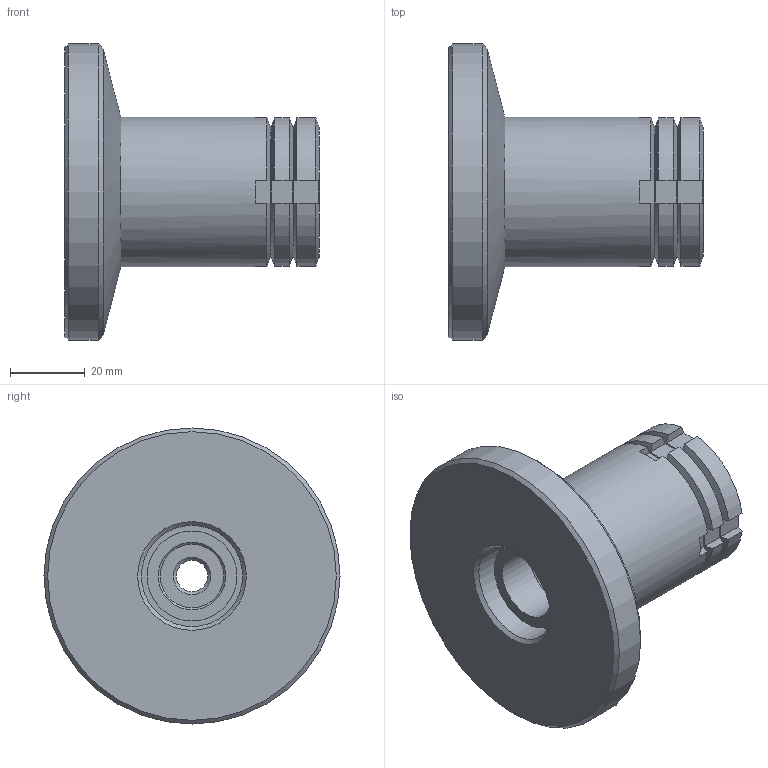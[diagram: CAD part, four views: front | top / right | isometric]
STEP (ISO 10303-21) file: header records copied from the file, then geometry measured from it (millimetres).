
FILE_DESCRIPTION( ( 'STEP AP203' ), '1' );
FILE_NAME( 'C:/Temp/Ganter_Step_05_03_2020/data/3_2/gn360/gn360_ni/Stainless Steel-Levelling set GN 360-79-M10-86-B-NI (0-0).stp', '2020-03-13T05:42:08', ( 'License CC BY-ND 4.0' ), ( 'CADENAS' ), ' ', 'PARTsolutions', ' ' );
FILE_SCHEMA( ( 'CONFIG_CONTROL_DESIGN' ) );
Length unit declared in the file: millimetre
Products named in the file (5): Stainless Steel-Levelling set GN 360-79-M10-86-B-NI (0-0); _Stainless Steel-Levelling set GN 360-79-M10-86-B-NI (0-0)-1; _Stainless Steel-Levelling set GN 360-79-M10-86-B-NI (0-0)-2; _Edelstahl-Ausgleich-Stellfuss GN 360-79-M10-86-B-NI (0-0)-4; _Stainless Steel-Levelling set GN 360-79-M10-86-B-NI (0-0)-3
Assembly tree (4 placements, depth 2):
  Stainless Steel-Levelling set GN 360-79-M10-86-B-NI (0-0)
    _Stainless Steel-Levelling set GN 360-79-M10-86-B-NI (0-0)-1
    _Stainless Steel-Levelling set GN 360-79-M10-86-B-NI (0-0)-2
    _Edelstahl-Ausgleich-Stellfuss GN 360-79-M10-86-B-NI (0-0)-4
    _Stainless Steel-Levelling set GN 360-79-M10-86-B-NI (0-0)-3
Bounding box: 68 x 79 x 79 mm (x, y, z)
Volume: 112266.4 mm3; surface area: 35788.4 mm2
Topology: 4 solids, 4 shells, 96 faces, 232 edges, 149 vertices
Faces by surface type: plane 53, cylinder 22, cone 18, sphere 2, torus 1
Full cylindrical faces by diameter (mm): 8.376 x1, 17 x1, 18 x1, 20 x1, 23.5 x1, 24 x1, 26 x1, 26.376 x2, 27 x1, 28 x1, 28.5 x1, 40 x1, 79 x1
Entity records: 2884 total; most frequent: CARTESIAN_POINT 711, DIRECTION 400, ORIENTED_EDGE 378, EDGE_CURVE 189, AXIS2_PLACEMENT_3D 170, EDGE_LOOP 144, VERTEX_POINT 141, FACE_OUTER_BOUND 113
